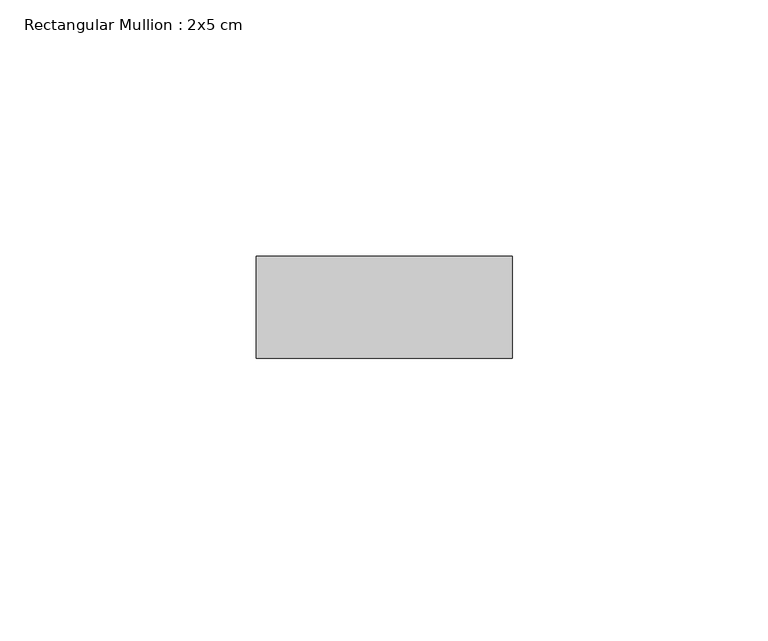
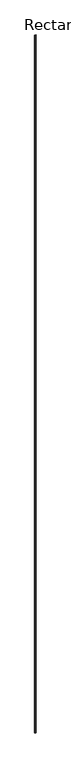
"""IFC4 building model written with IfcOpenShell, lengths in millimetres: member geometry, Rectangular Mullion : 2x5 cm."""

from ifc_helpers import new_model, si_unit, frame, origin, place, context, project, spatial, polyline, outline, extrude, source, transform, mapped, element, save


def rectangular_mullion_2x5_cm_1d77f07f(model_context):
    return source(origin(), model_context, "Body", "SweptSolid", [
        extrude(outline(polyline([(50.0, 20.0), (50.0, 0.0), (0.0, 0.0), (0.0, 20.0), (50.0, 20.0)])), frame((0.0, 0.0, -29449.8411889), z_axis=(0.0, 0.0, 1.0), x_axis=(1.0, 0.0, 0.0)), (0.0, 0.0, 1.0), 29449.8411889),
    ])


if __name__ == "__main__":
    model = new_model("IFC4")
    model_context = context("Model", 3, world=origin())
    ifc_project = project(units=[si_unit("LENGTHUNIT", "METRE", prefix="MILLI")], contexts=[model_context])
    site = spatial("IfcSite", under=ifc_project)
    building = spatial("IfcBuilding", under=site)
    placement = place(None, origin())
    rectangular_mullion_2x5_cm_shape = rectangular_mullion_2x5_cm_1d77f07f(model_context)
    element("IfcMember", 1, ObjectType="Rectangular Mullion : 2x5 cm", at=placement, inside=building, context=model_context, shape_type="MappedRepresentation", body=[
        mapped(rectangular_mullion_2x5_cm_shape, transform((0.0, 0.0, 0.0), x_axis=(1.0, 0.0, 0.0), y_axis=(0.0, 1.0, 0.0), z_axis=(0.0, 0.0, 1.0))),
    ])
    save(model, "model.ifc")
